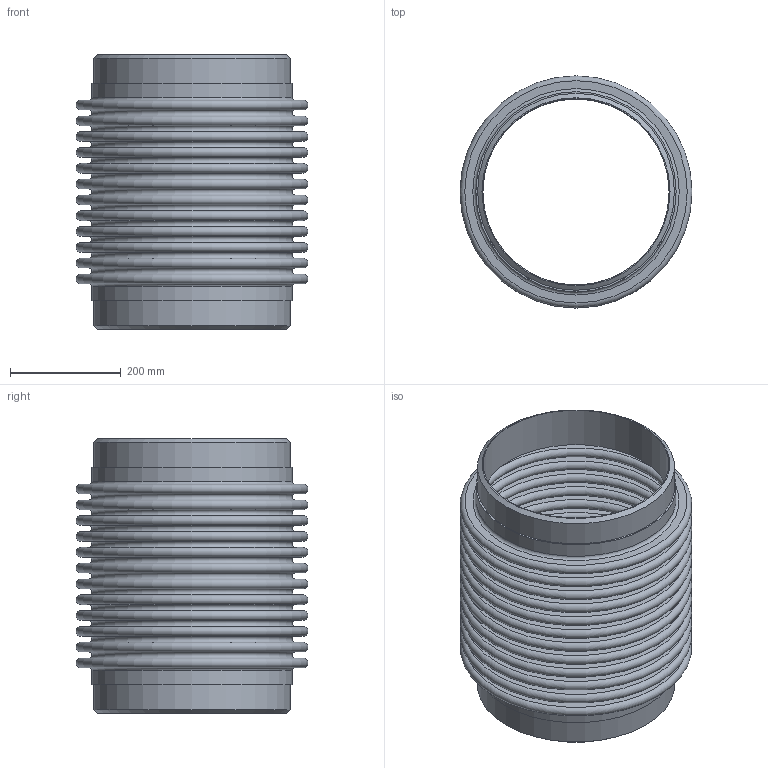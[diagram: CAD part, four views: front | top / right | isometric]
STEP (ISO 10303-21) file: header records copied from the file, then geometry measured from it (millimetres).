
FILE_DESCRIPTION(/* description */ ('EXPANSION JOINT,SINGLE, WELD ENDS,4 INCH NOMINAL'),/* implementation_level */ '2;1');
FILE_NAME(/* name */ 'ASSEMBLY US-14-12-300L.stp',/* time_stamp */ '2026-07-29T15:54:32-05:00',/* author */ ('jorgef'),/* organization */ (''),/* preprocessor_version */ 'ST-DEVELOPER v20.1',/* originating_system */ 'Autodesk Inventor 2026',/* authorisation */ '');
FILE_SCHEMA (('AUTOMOTIVE_DESIGN { 1 0 10303 214 3 1 1 }'));
Length unit declared in the file: inch
Products named in the file (3): ASSEMBLY  US-14-12-300L; STOCK BELLOW - US-14-12-300L; PIPE- US-14-12-300L
Assembly tree (3 placements, depth 2):
  ASSEMBLY  US-14-12-300L
    STOCK BELLOW - US-14-12-300L
    PIPE- US-14-12-300L  x2
Bounding box: 419.1 x 419.1 x 495.3 mm (x, y, z)
Volume: 4980457.6 mm3; surface area: 2651668 mm2
Topology: 5 solids, 5 shells, 118 faces, 180 edges, 121 vertices
Faces by surface type: plane 58, torus 50, cylinder 8, cone 2
Full cylindrical faces by diameter (mm): 336.55 x2, 355.6 x4, 361.696 x2
Entity records: 2769 total; most frequent: DIRECTION 573, CARTESIAN_POINT 405, ORIENTED_EDGE 342, AXIS2_PLACEMENT_3D 283, EDGE_CURVE 171, EDGE_LOOP 169, CIRCLE 164, VERTEX_POINT 114
